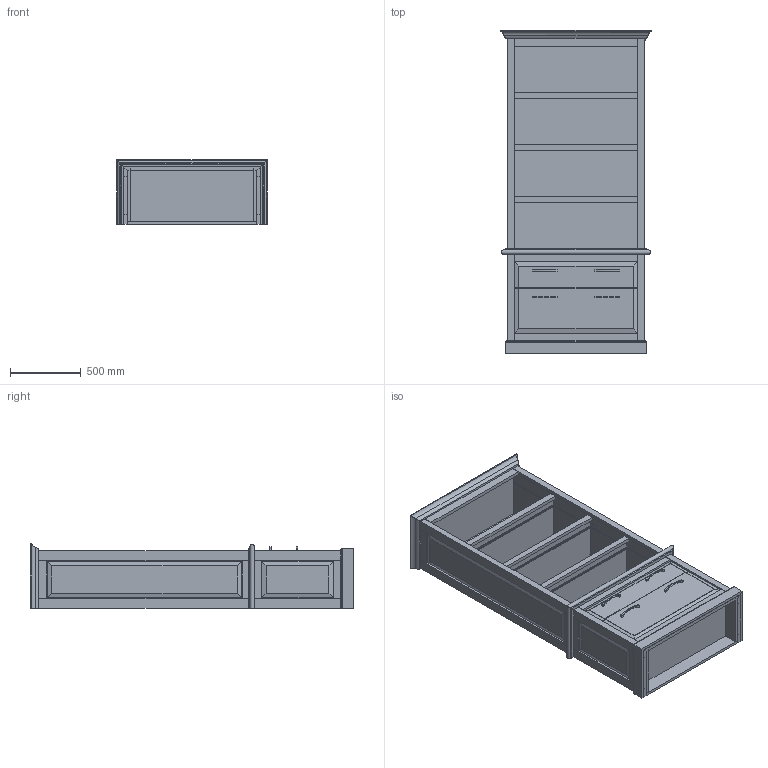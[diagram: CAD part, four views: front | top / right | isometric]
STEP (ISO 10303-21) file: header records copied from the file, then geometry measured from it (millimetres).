
FILE_DESCRIPTION(/* description */ ('','CAx-IF Rec.Pracs.---Representation and Presentation of Product Manufacturing Information (PMI)---4.0---2014-10-13'),/* implementation_level */ '2;1');
FILE_NAME(/* name */ 'CREDENZA STORAGE_CAMBRIDGE 3.stp',/* time_stamp */ '2024-12-07T17:43:28-05:00',/* author */ ('mbowman'),/* organization */ (''),/* preprocessor_version */ 'ST-DEVELOPER v19.2',/* originating_system */ 'Autodesk Inventor 2023',/* authorisation */ '');
FILE_SCHEMA (('AP242_MANAGED_MODEL_BASED_3D_ENGINEERING_MIM_LF { 1 0 10303 442 1 1 4 }'));
Length unit declared in the file: inch
Products named in the file (5): CAMBRIDGE^STORAGE 2_2 DRAWERS 3 SHELVES-SOLID ASSEMBLY; CAMBRIDGE^STORAGE 2_2 DRAWERS 3 SHELVES-PARTS SOLID; ART DECCO^GLAM-HAFELE 110_34_286; HAFELE^BUS BAR LIGHT_ALUMINUM EXTRUSION-LIGHT BAR (MOD LENGTH 34.375); HAFELE^BUS BAR_ALUMINUM-BUS BAR (MOD LENGTH 59)
Assembly tree (10 placements, depth 2):
  CAMBRIDGE^STORAGE 2_2 DRAWERS 3 SHELVES-SOLID ASSEMBLY
    CAMBRIDGE^STORAGE 2_2 DRAWERS 3 SHELVES-PARTS SOLID
    ART DECCO^GLAM-HAFELE 110_34_286  x4
    HAFELE^BUS BAR LIGHT_ALUMINUM EXTRUSION-LIGHT BAR (MOD LENGTH 34.375)  x3
    HAFELE^BUS BAR_ALUMINUM-BUS BAR (MOD LENGTH 59)  x2
Bounding box: 1066.8 x 2286 x 457.2 mm (x, y, z)
Volume: 191876918 mm3; surface area: 20177325 mm2
Topology: 72 solids, 72 shells, 835 faces, 1825 edges, 1198 vertices
Faces by surface type: plane 664, cylinder 133, torus 32, bspline 6
Full cylindrical faces by diameter (mm): 5 x60, 7 x6, 7.7 x6
Entity records: 19555 total; most frequent: CARTESIAN_POINT 4084, DIRECTION 2868, ORIENTED_EDGE 2624, EDGE_CURVE 1312, LINE 1092, VECTOR 1092, AXIS2_PLACEMENT_3D 888, VERTEX_POINT 860
